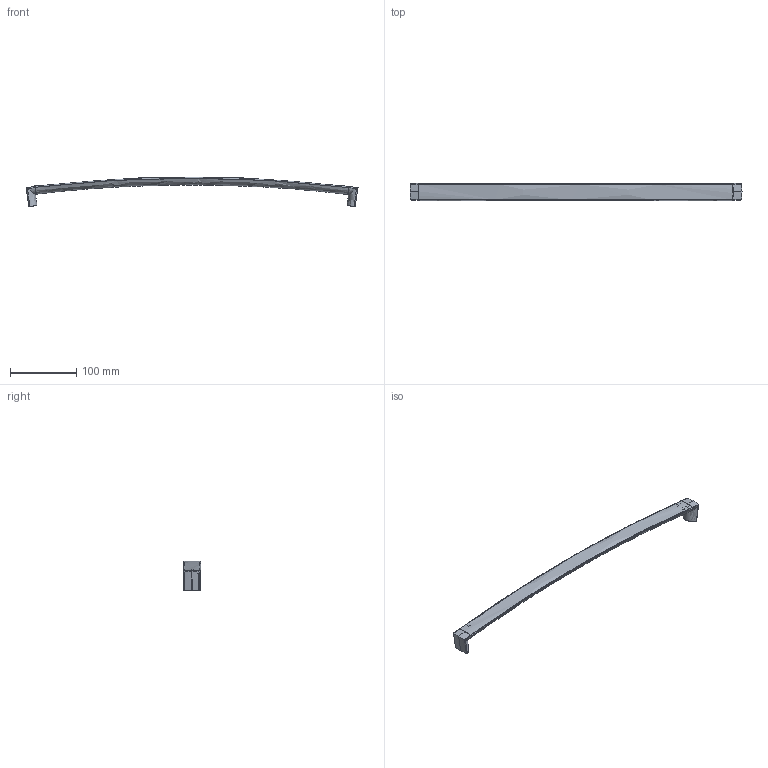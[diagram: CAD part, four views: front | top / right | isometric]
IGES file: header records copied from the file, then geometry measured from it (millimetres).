
Start section: C
Global section: file name: 8016R2000.igs; native system: By Siemens PLM Incorporated; preprocessor: XPlus GENERIC/IGES 16.0.42; author: Author; organization: Title; date: 20260104.140521; units: millimetre
Bounding box: 501.49 x 25.73 x 44.23 mm (x, y, z)
Surface area: 109090.6 mm2 (no closed solid volume)
Topology: 0 solids, 0 shells, 242 faces, 1224 edges, 1224 vertices
Faces by surface type: bspline 242
